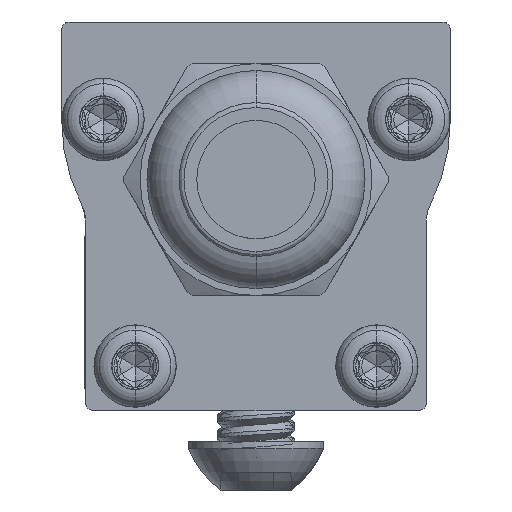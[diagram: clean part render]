
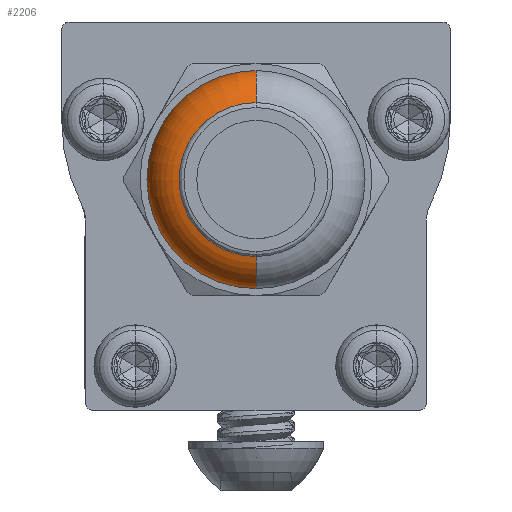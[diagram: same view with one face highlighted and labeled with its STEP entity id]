
A CAD part, left-side view. The second image highlights one B-rep face of the part: STEP entity #2206.
In plain terms, the highlighted toroidal (fillet/blend) face has major radius 3.518 mm and minor radius 2.095 mm.
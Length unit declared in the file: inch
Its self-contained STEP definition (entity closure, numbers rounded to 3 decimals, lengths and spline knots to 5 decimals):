
#311 = CARTESIAN_POINT ( 'NONE',  ( -0.395, 0., 0.156 ) ) ;
#656 = CARTESIAN_POINT ( 'NONE',  ( -0.31437, 0., -0.13852 ) ) ;
#2206 = ADVANCED_FACE ( 'NONE', ( #28507 ), #24737, .T. ) ;
#2236 = CIRCLE ( 'NONE', #11062, 0.0825 ) ;
#2359 = CARTESIAN_POINT ( 'NONE',  ( -0.31437, 0., 0. ) ) ;
#3307 = ORIENTED_EDGE ( 'NONE', *, *, #28258, .T. ) ;
#5553 = EDGE_CURVE ( 'NONE', #26564, #13898, #16265, .T. ) ;
#5696 = DIRECTION ( 'NONE',  ( 0., 0., 1. ) ) ;
#5781 = CARTESIAN_POINT ( 'NONE',  ( -0.395, 0., 0. ) ) ;
#6709 = DIRECTION ( 'NONE',  ( 0., 0., 1. ) ) ;
#6955 = EDGE_LOOP ( 'NONE', ( #14176, #3307, #19370, #22647 ) ) ;
#7170 = DIRECTION ( 'NONE',  ( 0., 0., 1. ) ) ;
#8354 = CARTESIAN_POINT ( 'NONE',  ( -0.395, 0., -0.156 ) ) ;
#8380 = DIRECTION ( 'NONE',  ( 0., 0., -1. ) ) ;
#9115 = AXIS2_PLACEMENT_3D ( 'NONE', #2359, #19007, #7170 ) ;
#9276 = CIRCLE ( 'NONE', #9115, 0.22102 ) ;
#9925 = CARTESIAN_POINT ( 'NONE',  ( -0.31437, 0., -0.22102 ) ) ;
#11062 = AXIS2_PLACEMENT_3D ( 'NONE', #15627, #27379, #8380 ) ;
#11328 = DIRECTION ( 'NONE',  ( -1., 0., 0. ) ) ;
#12615 = DIRECTION ( 'NONE',  ( -1., 0., 0. ) ) ;
#13898 = VERTEX_POINT ( 'NONE', #8354 ) ;
#14176 = ORIENTED_EDGE ( 'NONE', *, *, #30407, .F. ) ;
#14216 = VERTEX_POINT ( 'NONE', #9925 ) ;
#14571 = DIRECTION ( 'NONE',  ( 0., 0., 1. ) ) ;
#15573 = AXIS2_PLACEMENT_3D ( 'NONE', #28015, #11328, #6709 ) ;
#15627 = CARTESIAN_POINT ( 'NONE',  ( -0.31437, 0., 0.13852 ) ) ;
#16265 = CIRCLE ( 'NONE', #20420, 0.156 ) ;
#16416 = AXIS2_PLACEMENT_3D ( 'NONE', #656, #17329, #14571 ) ;
#17329 = DIRECTION ( 'NONE',  ( 0., 1., 0. ) ) ;
#19007 = DIRECTION ( 'NONE',  ( 1., 0., 0. ) ) ;
#19370 = ORIENTED_EDGE ( 'NONE', *, *, #5553, .F. ) ;
#20420 = AXIS2_PLACEMENT_3D ( 'NONE', #5781, #12615, #5696 ) ;
#21649 = CARTESIAN_POINT ( 'NONE',  ( -0.31437, 0., 0.22102 ) ) ;
#22647 = ORIENTED_EDGE ( 'NONE', *, *, #28770, .F. ) ;
#23933 = VERTEX_POINT ( 'NONE', #21649 ) ;
#24737 = TOROIDAL_SURFACE ( 'NONE', #15573, 0.13852, 0.0825 ) ;
#26564 = VERTEX_POINT ( 'NONE', #311 ) ;
#27379 = DIRECTION ( 'NONE',  ( 0., -1., 0. ) ) ;
#28015 = CARTESIAN_POINT ( 'NONE',  ( -0.31437, 0., 0. ) ) ;
#28258 = EDGE_CURVE ( 'NONE', #14216, #13898, #29800, .T. ) ;
#28507 = FACE_OUTER_BOUND ( 'NONE', #6955, .T. ) ;
#28770 = EDGE_CURVE ( 'NONE', #23933, #26564, #2236, .T. ) ;
#29800 = CIRCLE ( 'NONE', #16416, 0.0825 ) ;
#30407 = EDGE_CURVE ( 'NONE', #14216, #23933, #9276, .T. ) ;
